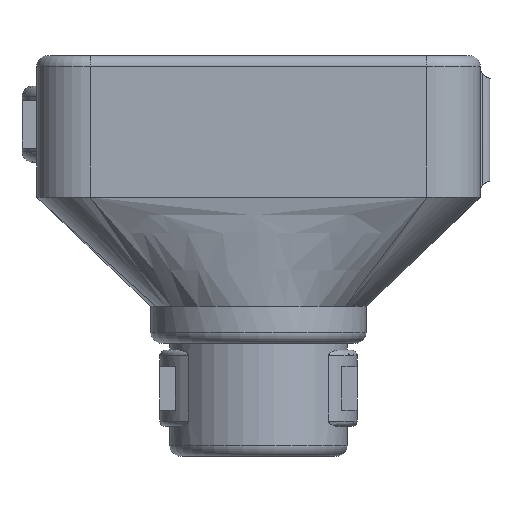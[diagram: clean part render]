
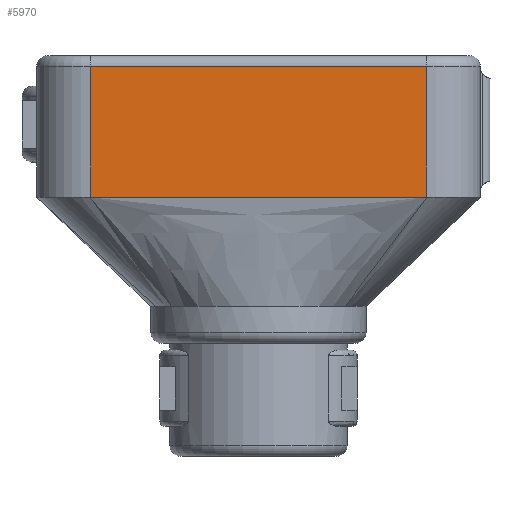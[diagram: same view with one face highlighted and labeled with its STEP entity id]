
A CAD part, front view. The second image highlights one B-rep face of the part: STEP entity #5970.
In plain terms, the highlighted planar face has unit normal (0, -1, 0).
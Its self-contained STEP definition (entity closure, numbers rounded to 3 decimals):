
#1944=DIRECTION('',(0.,0.,-1.));
#1945=VECTOR('',#1944,12.);
#1946=CARTESIAN_POINT('',(15.45,-11.3,-1.));
#1947=LINE('',#1946,#1945);
#1948=DIRECTION('',(1.,0.,0.));
#1949=VECTOR('',#1948,30.9);
#1950=CARTESIAN_POINT('',(-15.45,-11.3,-1.));
#1951=LINE('',#1950,#1949);
#1952=DIRECTION('',(-1.,0.,0.));
#1953=VECTOR('',#1952,30.9);
#1954=CARTESIAN_POINT('',(15.45,-11.3,-13.));
#1955=LINE('',#1954,#1953);
#1956=DIRECTION('',(0.,0.,-1.));
#1957=VECTOR('',#1956,12.);
#1958=CARTESIAN_POINT('',(-15.45,-11.3,-1.));
#1959=LINE('',#1958,#1957);
#2232=CARTESIAN_POINT('',(15.45,-11.3,-13.));
#2233=VERTEX_POINT('',#2232);
#2234=CARTESIAN_POINT('',(-15.45,-11.3,-13.));
#2235=VERTEX_POINT('',#2234);
#2598=CARTESIAN_POINT('',(15.45,-11.3,-1.));
#2600=VERTEX_POINT('',#2598);
#2604=CARTESIAN_POINT('',(-15.45,-11.3,-1.));
#2605=VERTEX_POINT('',#2604);
#5958=CARTESIAN_POINT('',(-15.45,-11.3,0.));
#5959=DIRECTION('',(0.,-1.,0.));
#5960=DIRECTION('',(1.,0.,0.));
#5961=AXIS2_PLACEMENT_3D('',#5958,#5959,#5960);
#5962=PLANE('',#5961);
#5963=ORIENTED_EDGE('',*,*,#3405,.T.);
#5964=ORIENTED_EDGE('',*,*,#5953,.T.);
#5965=ORIENTED_EDGE('',*,*,#4096,.T.);
#5967=ORIENTED_EDGE('',*,*,#5966,.F.);
#5968=EDGE_LOOP('',(#5963,#5964,#5965,#5967));
#5969=FACE_OUTER_BOUND('',#5968,.F.);
#5970=ADVANCED_FACE('',(#5969),#5962,.T.);
#3405=EDGE_CURVE('',#2605,#2600,#1951,.T.);
#4096=EDGE_CURVE('',#2233,#2235,#1955,.T.);
#5953=EDGE_CURVE('',#2600,#2233,#1947,.T.);
#5966=EDGE_CURVE('',#2605,#2235,#1959,.T.);
